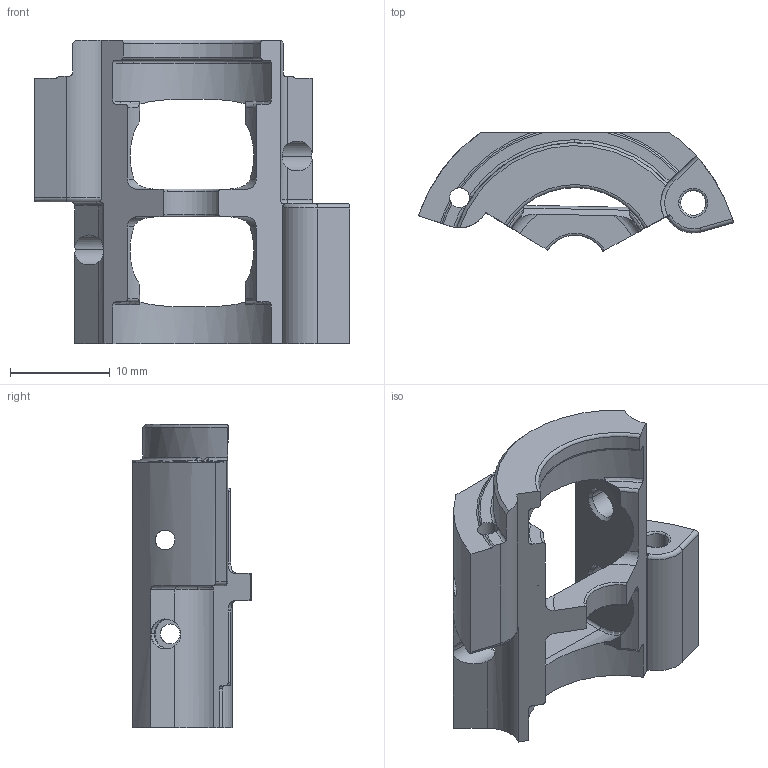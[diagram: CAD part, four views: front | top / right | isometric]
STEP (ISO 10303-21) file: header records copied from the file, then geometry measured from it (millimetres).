
FILE_DESCRIPTION (( 'STEP AP214' ), '1' );
FILE_NAME ('Öåíòðàëüíûé ÄèôÒ - Êîðïóñ.STEP', '2019-03-23T07:30:40', ( '' ), ( '' ), 'SwSTEP 2.0', 'SolidWorks 2018', '' );
FILE_SCHEMA (( 'AUTOMOTIVE_DESIGN' ));
Length unit declared in the file: millimetre
Products named in the file (1): Öåíòðàëüíûé ÄèôÒ - Êîðïóñ
Bounding box: 31.52 x 11.85 x 30.4 mm (x, y, z)
Volume: 2833.8 mm3; surface area: 2870.5 mm2
Topology: 1 solids, 1 shells, 139 faces, 392 edges, 249 vertices
Faces by surface type: cylinder 46, torus 46, plane 36, cone 9, bspline 2
Entity records: 4966 total; most frequent: CARTESIAN_POINT 1365, ORIENTED_EDGE 780, DIRECTION 748, EDGE_CURVE 390, AXIS2_PLACEMENT_3D 308, VERTEX_POINT 249, CIRCLE 170, EDGE_LOOP 151
